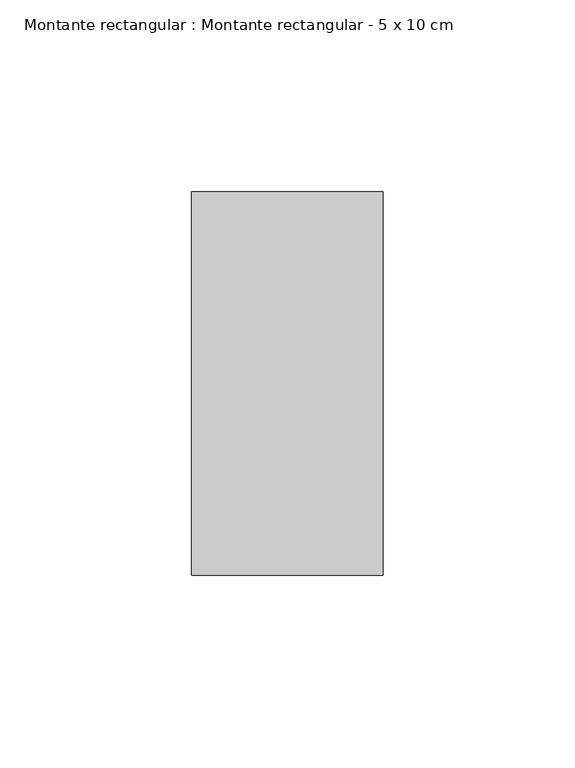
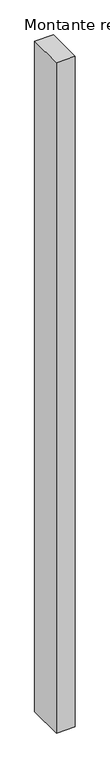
"""IFC4 building model written with IfcOpenShell, lengths in millimetres: member geometry, Montante rectangular : Montante rectangular - 5 x 10 cm."""

from ifc_helpers import new_model, si_unit, frame, origin, place, context, project, spatial, polyline, outline, extrude, source, transform, mapped, element, save


def montante_rectangular_montante_rectangular_5_x_10_cm_423e0d2f(model_context):
    return source(origin(), model_context, "Body", "SweptSolid", [
        extrude(outline(polyline([(0.0, -50.0), (-50.0, -50.0), (-50.0, 50.0), (0.0, 50.0), (0.0, -50.0)])), frame((0.0, 0.0, -1890.0), z_axis=(0.0, 0.0, 1.0), x_axis=(1.0, 0.0, 0.0)), (0.0, 0.0, 1.0), 1890.0),
    ])


if __name__ == "__main__":
    model = new_model("IFC4")
    model_context = context("Model", 3, world=origin())
    ifc_project = project(units=[si_unit("LENGTHUNIT", "METRE", prefix="MILLI")], contexts=[model_context])
    site = spatial("IfcSite", under=ifc_project)
    building = spatial("IfcBuilding", under=site)
    placement = place(None, origin())
    montante_rectangular_montante_rectangular_5_x_10_cm_shape = montante_rectangular_montante_rectangular_5_x_10_cm_423e0d2f(model_context)
    element("IfcMember", 1, ObjectType="Montante rectangular : Montante rectangular - 5 x 10 cm", at=placement, inside=building, context=model_context, shape_type="MappedRepresentation", body=[
        mapped(montante_rectangular_montante_rectangular_5_x_10_cm_shape, transform((0.0, 0.0, 0.0), x_axis=(1.0, 0.0, 0.0), y_axis=(0.0, 1.0, 0.0), z_axis=(0.0, 0.0, 1.0))),
    ])
    save(model, "model.ifc")
